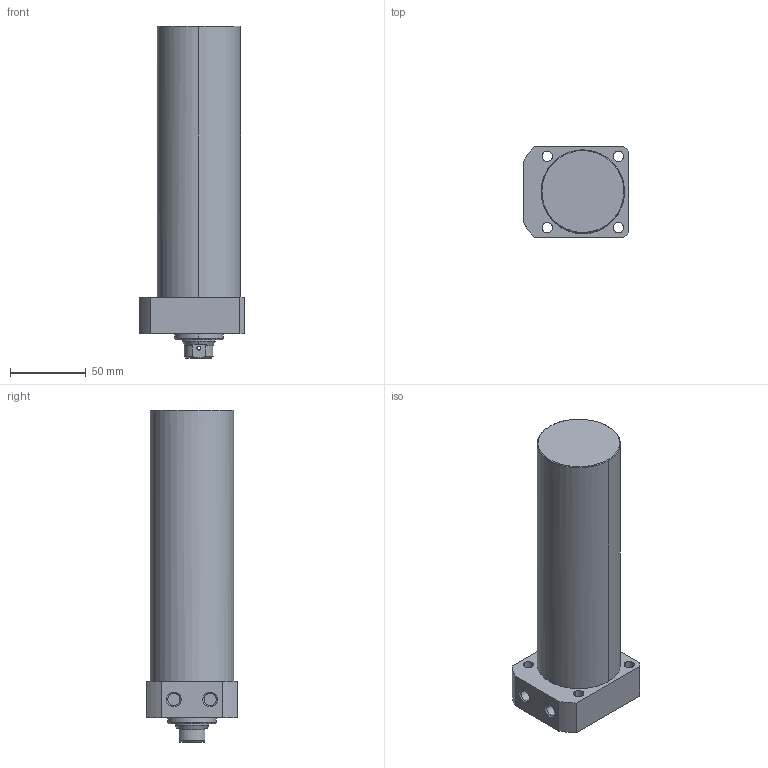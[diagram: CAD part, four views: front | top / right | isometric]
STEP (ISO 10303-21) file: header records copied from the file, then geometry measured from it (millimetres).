
FILE_DESCRIPTION((' '),'2;1');
FILE_NAME( 'TLLR-055CB-150.STEP.stp', '2025-10-24T16:34:46', (' '), ('--- Datakit www.datakit.com---'), ' Datakit CrossCadWare V2024.1 Dec 21 2023', 'Mastercam 2025', ' ');
FILE_SCHEMA(('AUTOMOTIVE_DESIGN { 1 0 10303 214 1 1 1 1 }'));
Length unit declared in the file: millimetre
Products named in the file (1): TLLR-055CB-150
Bounding box: 69 x 60 x 219 mm (x, y, z)
Volume: 522858.8 mm3; surface area: 49264.5 mm2
Topology: 1 solids, 1 shells, 67 faces, 197 edges, 136 vertices
Faces by surface type: cylinder 32, plane 19, cone 14, torus 2
Entity records: 3058 total; most frequent: CARTESIAN_POINT 1139, DIRECTION 426, ORIENTED_EDGE 390, EDGE_CURVE 195, AXIS2_PLACEMENT_3D 179, VERTEX_POINT 136, CIRCLE 111, EDGE_LOOP 85
